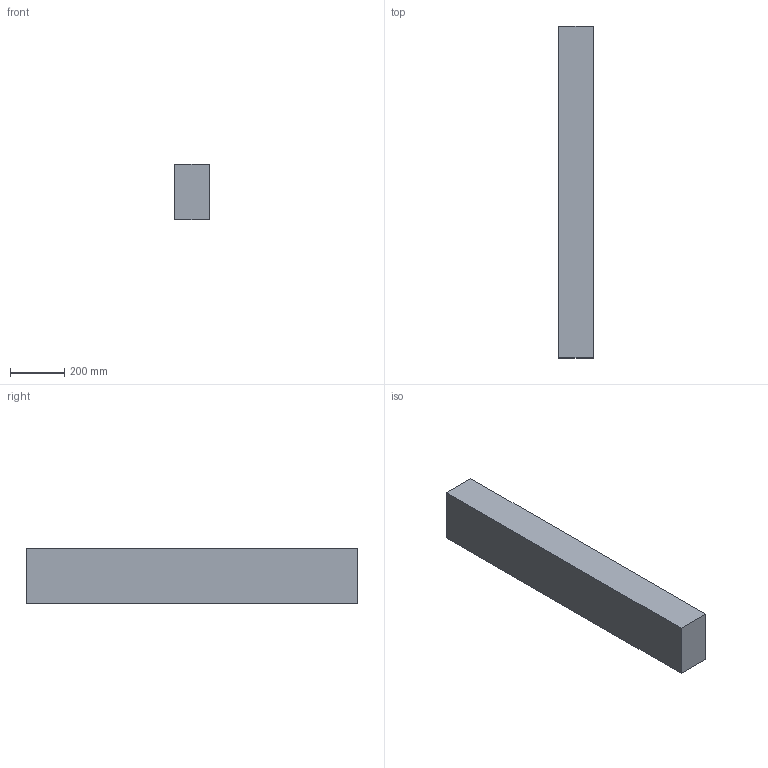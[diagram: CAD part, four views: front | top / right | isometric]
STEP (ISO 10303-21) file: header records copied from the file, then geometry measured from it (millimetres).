
FILE_DESCRIPTION(/* description */ (''),/* implementation_level */ '2;1');
FILE_NAME(/* name */ '5x8x48',/* time_stamp */ '2024-09-20T11:46:12-05:00',/* author */ (''),/* organization */ (''),/* preprocessor_version */ 'ST-DEVELOPER v19.2',/* originating_system */ 'Rhino 8.5',/* authorisation */ '');
FILE_SCHEMA (('CONFIG_CONTROL_DESIGN'));
Length unit declared in the file: inch
Products named in the file (1): Document
Bounding box: 127 x 1219.2 x 203.2 mm (x, y, z)
Volume: 31463162.9 mm3; surface area: 856772.5 mm2
Topology: 1 solids, 1 shells, 6 faces, 12 edges, 8 vertices
Faces by surface type: plane 6
Entity records: 226 total; most frequent: CARTESIAN_POINT 40, ORIENTED_EDGE 24, EDGE_CURVE 12, B_SPLINE_CURVE_WITH_KNOTS 12, DIRECTION 10, VERTEX_POINT 8, AXIS2_PLACEMENT_3D 8, ORGANIZATION 7
